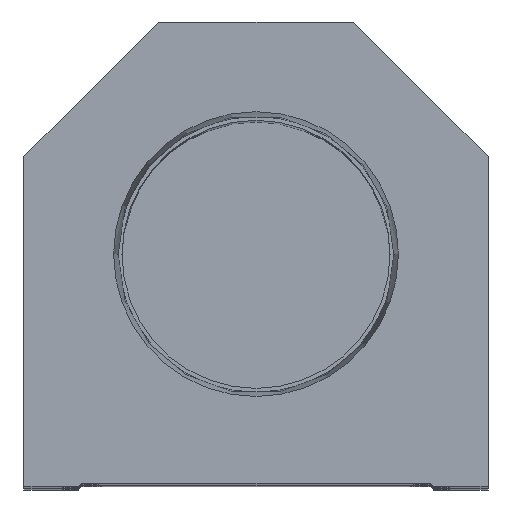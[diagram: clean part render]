
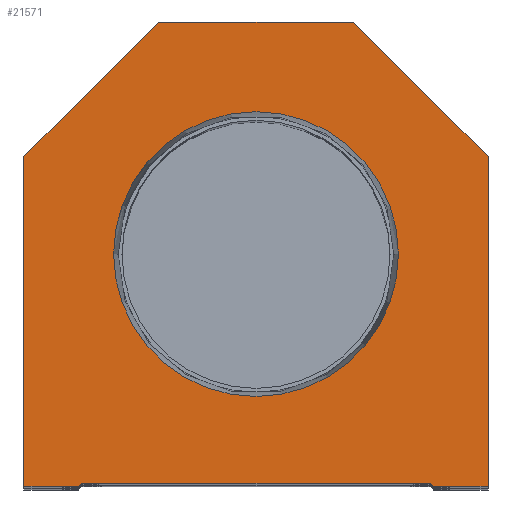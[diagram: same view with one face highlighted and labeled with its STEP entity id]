
A CAD part, top view. The second image highlights one B-rep face of the part: STEP entity #21571.
In plain terms, the highlighted planar face has unit normal (0, 0, 1).
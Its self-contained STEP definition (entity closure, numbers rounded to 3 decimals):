
#109 = EDGE_CURVE ( 'NONE', #13740, #3188, #20831, .T. ) ;
#155 = VERTEX_POINT ( 'NONE', #17351 ) ;
#245 = EDGE_CURVE ( 'NONE', #4447, #13740, #2422, .T. ) ;
#470 = CARTESIAN_POINT ( 'NONE',  ( 0., 0., 0. ) ) ;
#539 = CIRCLE ( 'NONE', #13760, 23.374 ) ;
#585 = EDGE_CURVE ( 'NONE', #21298, #17188, #9892, .T. ) ;
#769 = VERTEX_POINT ( 'NONE', #2677 ) ;
#1182 = CARTESIAN_POINT ( 'NONE',  ( 14.55, 14.55, 0. ) ) ;
#1347 = CARTESIAN_POINT ( 'NONE',  ( 28.6, 0.5, 0. ) ) ;
#1465 = EDGE_CURVE ( 'NONE', #21653, #155, #18168, .T. ) ;
#1572 = CARTESIAN_POINT ( 'NONE',  ( -29.1, 0., 0. ) ) ;
#1865 = VECTOR ( 'NONE', #8225, 1000. ) ;
#1986 = VERTEX_POINT ( 'NONE', #10621 ) ;
#2331 = ORIENTED_EDGE ( 'NONE', *, *, #20028, .T. ) ;
#2398 = CARTESIAN_POINT ( 'NONE',  ( 38.1, 54.1, 0. ) ) ;
#2422 = LINE ( 'NONE', #9116, #21413 ) ;
#2472 = CARTESIAN_POINT ( 'NONE',  ( 0., 38.1, 0. ) ) ;
#2677 = CARTESIAN_POINT ( 'NONE',  ( -38.1, 0., 0. ) ) ;
#2949 = EDGE_CURVE ( 'NONE', #1986, #4447, #20162, .T. ) ;
#3188 = VERTEX_POINT ( 'NONE', #11741 ) ;
#4030 = ORIENTED_EDGE ( 'NONE', *, *, #4061, .T. ) ;
#4043 = PLANE ( 'NONE',  #16665 ) ;
#4061 = EDGE_CURVE ( 'NONE', #155, #1986, #5156, .T. ) ;
#4257 = DIRECTION ( 'NONE',  ( 1., 0., 0. ) ) ;
#4447 = VERTEX_POINT ( 'NONE', #2398 ) ;
#4519 = CARTESIAN_POINT ( 'NONE',  ( 16., 76.2, 0. ) ) ;
#5149 = VECTOR ( 'NONE', #17116, 1000. ) ;
#5156 = LINE ( 'NONE', #5261, #12647 ) ;
#5242 = AXIS2_PLACEMENT_3D ( 'NONE', #2472, #14338, #4257 ) ;
#5261 = CARTESIAN_POINT ( 'NONE',  ( 28.6, 0., 0. ) ) ;
#5265 = LINE ( 'NONE', #10084, #5149 ) ;
#5487 = FACE_BOUND ( 'NONE', #16098, .T. ) ;
#5524 = CARTESIAN_POINT ( 'NONE',  ( 16., 76.2, 0. ) ) ;
#5570 = ORIENTED_EDGE ( 'NONE', *, *, #585, .F. ) ;
#5720 = CARTESIAN_POINT ( 'NONE',  ( 23.374, 38.1, 0. ) ) ;
#6126 = EDGE_CURVE ( 'NONE', #769, #6421, #20755, .T. ) ;
#6421 = VERTEX_POINT ( 'NONE', #1572 ) ;
#6889 = ORIENTED_EDGE ( 'NONE', *, *, #245, .T. ) ;
#7283 = VECTOR ( 'NONE', #13399, 1000. ) ;
#8225 = DIRECTION ( 'NONE',  ( 0., -1., 0. ) ) ;
#8271 = CARTESIAN_POINT ( 'NONE',  ( 0., 38.1, 0. ) ) ;
#8723 = DIRECTION ( 'NONE',  ( 1., 0., 0. ) ) ;
#8911 = VECTOR ( 'NONE', #19173, 1000. ) ;
#9116 = CARTESIAN_POINT ( 'NONE',  ( 38.1, 54.1, 0. ) ) ;
#9673 = LINE ( 'NONE', #21854, #7283 ) ;
#9892 = CIRCLE ( 'NONE', #5242, 23.374 ) ;
#9954 = CARTESIAN_POINT ( 'NONE',  ( -38.1, 54.1, 0. ) ) ;
#10084 = CARTESIAN_POINT ( 'NONE',  ( -28.6, 0.5, 0. ) ) ;
#10621 = CARTESIAN_POINT ( 'NONE',  ( 38.1, 0., 0. ) ) ;
#10625 = FACE_OUTER_BOUND ( 'NONE', #12821, .T. ) ;
#11160 = EDGE_CURVE ( 'NONE', #3188, #13024, #18477, .T. ) ;
#11621 = CARTESIAN_POINT ( 'NONE',  ( -38.1, 0., 0. ) ) ;
#11668 = CARTESIAN_POINT ( 'NONE',  ( 38.1, 0., 0. ) ) ;
#11741 = CARTESIAN_POINT ( 'NONE',  ( -16., 76.2, 0. ) ) ;
#11790 = CARTESIAN_POINT ( 'NONE',  ( -28.6, 0.5, 0. ) ) ;
#12088 = DIRECTION ( 'NONE',  ( 1., 0., 0. ) ) ;
#12193 = DIRECTION ( 'NONE',  ( 0., 0., 1. ) ) ;
#12232 = EDGE_CURVE ( 'NONE', #13024, #769, #16654, .T. ) ;
#12617 = CARTESIAN_POINT ( 'NONE',  ( -23.374, 38.1, 0. ) ) ;
#12647 = VECTOR ( 'NONE', #8723, 1000. ) ;
#12821 = EDGE_LOOP ( 'NONE', ( #14721, #15776, #2331, #16052, #4030, #15590, #6889, #15878, #14679, #16614 ) ) ;
#13024 = VERTEX_POINT ( 'NONE', #15126 ) ;
#13045 = DIRECTION ( 'NONE',  ( 0.707, -0.707, 0. ) ) ;
#13399 = DIRECTION ( 'NONE',  ( 0.707, 0.707, 0. ) ) ;
#13740 = VERTEX_POINT ( 'NONE', #4519 ) ;
#13760 = AXIS2_PLACEMENT_3D ( 'NONE', #8271, #15132, #21942 ) ;
#14338 = DIRECTION ( 'NONE',  ( 0., 0., 1. ) ) ;
#14679 = ORIENTED_EDGE ( 'NONE', *, *, #11160, .T. ) ;
#14721 = ORIENTED_EDGE ( 'NONE', *, *, #6126, .T. ) ;
#15126 = CARTESIAN_POINT ( 'NONE',  ( -38.1, 54.1, 0. ) ) ;
#15132 = DIRECTION ( 'NONE',  ( 0., 0., 1. ) ) ;
#15501 = ORIENTED_EDGE ( 'NONE', *, *, #19936, .F. ) ;
#15590 = ORIENTED_EDGE ( 'NONE', *, *, #2949, .T. ) ;
#15776 = ORIENTED_EDGE ( 'NONE', *, *, #20303, .T. ) ;
#15878 = ORIENTED_EDGE ( 'NONE', *, *, #109, .T. ) ;
#16052 = ORIENTED_EDGE ( 'NONE', *, *, #1465, .T. ) ;
#16098 = EDGE_LOOP ( 'NONE', ( #15501, #5570 ) ) ;
#16614 = ORIENTED_EDGE ( 'NONE', *, *, #12232, .T. ) ;
#16654 = LINE ( 'NONE', #11621, #1865 ) ;
#16665 = AXIS2_PLACEMENT_3D ( 'NONE', #470, #12193, #12088 ) ;
#16769 = DIRECTION ( 'NONE',  ( -0.707, -0.707, 0. ) ) ;
#17116 = DIRECTION ( 'NONE',  ( 1., 0., 0. ) ) ;
#17162 = VECTOR ( 'NONE', #13045, 1000. ) ;
#17187 = DIRECTION ( 'NONE',  ( 1., 0., 0. ) ) ;
#17188 = VERTEX_POINT ( 'NONE', #5720 ) ;
#17351 = CARTESIAN_POINT ( 'NONE',  ( 29.1, 0., 0. ) ) ;
#18168 = LINE ( 'NONE', #1182, #17162 ) ;
#18241 = VECTOR ( 'NONE', #16769, 1000. ) ;
#18477 = LINE ( 'NONE', #9954, #18241 ) ;
#18712 = DIRECTION ( 'NONE',  ( 0., 1., 0. ) ) ;
#18765 = CARTESIAN_POINT ( 'NONE',  ( -28.6, 0., 0. ) ) ;
#19173 = DIRECTION ( 'NONE',  ( -1., 0., 0. ) ) ;
#19392 = VECTOR ( 'NONE', #18712, 1000. ) ;
#19424 = DIRECTION ( 'NONE',  ( -0.707, 0.707, 0. ) ) ;
#19936 = EDGE_CURVE ( 'NONE', #17188, #21298, #539, .T. ) ;
#20028 = EDGE_CURVE ( 'NONE', #20373, #21653, #5265, .T. ) ;
#20162 = LINE ( 'NONE', #11668, #19392 ) ;
#20303 = EDGE_CURVE ( 'NONE', #6421, #20373, #9673, .T. ) ;
#20373 = VERTEX_POINT ( 'NONE', #11790 ) ;
#20670 = VECTOR ( 'NONE', #17187, 1000. ) ;
#20755 = LINE ( 'NONE', #18765, #20670 ) ;
#20831 = LINE ( 'NONE', #5524, #8911 ) ;
#21298 = VERTEX_POINT ( 'NONE', #12617 ) ;
#21413 = VECTOR ( 'NONE', #19424, 1000. ) ;
#21571 = ADVANCED_FACE ( 'NONE', ( #5487, #10625 ), #4043, .T. ) ;
#21653 = VERTEX_POINT ( 'NONE', #1347 ) ;
#21854 = CARTESIAN_POINT ( 'NONE',  ( -14.55, 14.55, 0. ) ) ;
#21942 = DIRECTION ( 'NONE',  ( 1., 0., 0. ) ) ;
